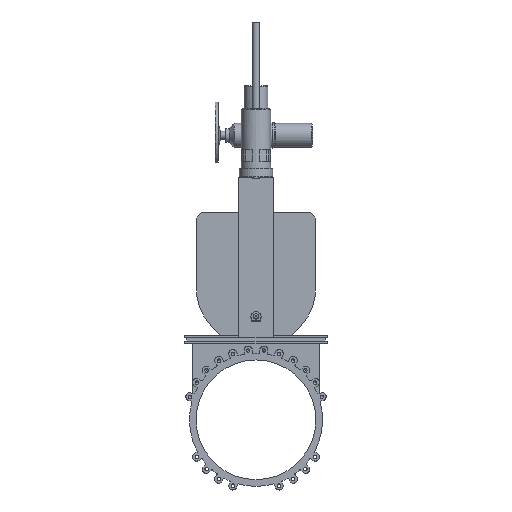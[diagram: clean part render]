
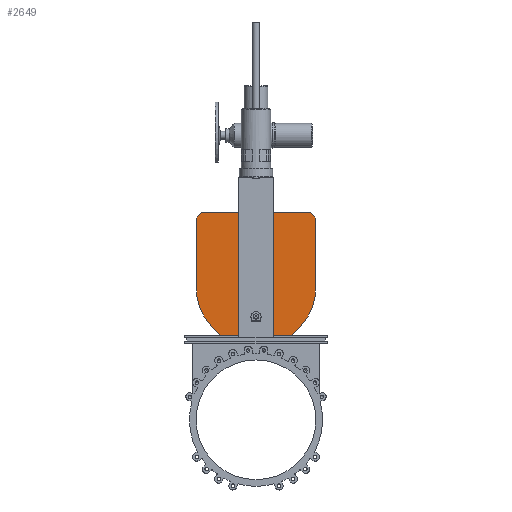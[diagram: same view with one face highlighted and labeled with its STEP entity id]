
A CAD part, front view. The second image highlights one B-rep face of the part: STEP entity #2649.
In plain terms, the highlighted planar face has unit normal (0, -1, 0).
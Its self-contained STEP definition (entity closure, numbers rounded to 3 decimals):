
#2649=ADVANCED_FACE('',(#6391),#6393,.T.);
#6391=FACE_BOUND('',#6392,.T.);
#6392=EDGE_LOOP('',(#9331,#9332,#9333,#9334,#9335,#9336,#9337,#9338,#9339,#9340,
#9341,#9342));
#6393=PLANE('',#6394);
#6394=AXIS2_PLACEMENT_3D('',#6395,#6396,#6397);
#6395=CARTESIAN_POINT('',(0.,-7.,0.));
#6396=DIRECTION('',(0.,-1.,0.));
#6397=DIRECTION('',(1.,0.,0.));
#9331=ORIENTED_EDGE('',*,*,#11648,.F.);
#9332=ORIENTED_EDGE('',*,*,#11649,.T.);
#9333=ORIENTED_EDGE('',*,*,#11650,.T.);
#9334=ORIENTED_EDGE('',*,*,#11651,.F.);
#9335=ORIENTED_EDGE('',*,*,#11652,.T.);
#9336=ORIENTED_EDGE('',*,*,#11634,.F.);
#9337=ORIENTED_EDGE('',*,*,#11653,.F.);
#9338=ORIENTED_EDGE('',*,*,#11625,.F.);
#9339=ORIENTED_EDGE('',*,*,#11647,.T.);
#9340=ORIENTED_EDGE('',*,*,#11654,.F.);
#9341=ORIENTED_EDGE('',*,*,#11655,.T.);
#9342=ORIENTED_EDGE('',*,*,#11656,.T.);
#11625=EDGE_CURVE('',#14810,#14812,#14813,.T.);
#11634=EDGE_CURVE('',#14825,#14827,#14828,.T.);
#11647=EDGE_CURVE('',#14810,#14848,#14850,.T.);
#11648=EDGE_CURVE('',#14851,#14852,#14853,.T.);
#11649=EDGE_CURVE('',#14851,#14854,#14855,.T.);
#11650=EDGE_CURVE('',#14854,#14856,#14857,.T.);
#11651=EDGE_CURVE('',#14858,#14856,#14859,.F.);
#11652=EDGE_CURVE('',#14858,#14827,#14860,.T.);
#11653=EDGE_CURVE('',#14812,#14825,#14861,.F.);
#11654=EDGE_CURVE('',#14862,#14848,#14863,.F.);
#11655=EDGE_CURVE('',#14862,#14864,#14865,.T.);
#11656=EDGE_CURVE('',#14864,#14852,#14866,.T.);
#14810=VERTEX_POINT('',#16406);
#14812=VERTEX_POINT('',#16410);
#14813=LINE('',#16411,#16412);
#14825=VERTEX_POINT('',#16439);
#14827=VERTEX_POINT('',#16443);
#14828=LINE('',#16444,#16445);
#14848=VERTEX_POINT('',#16490);
#14850=LINE('',#16494,#16495);
#14851=VERTEX_POINT('',#16497);
#14852=VERTEX_POINT('',#16498);
#14853=LINE('',#16499,#16500);
#14854=VERTEX_POINT('',#16502);
#14855=CIRCLE('',#16503,450.);
#14856=VERTEX_POINT('',#16507);
#14857=LINE('',#16508,#16509);
#14858=VERTEX_POINT('',#16511);
#14859=LINE('',#16512,#16513);
#14860=LINE('',#16515,#16516);
#14861=LINE('',#16518,#16519);
#14862=VERTEX_POINT('',#16521);
#14863=LINE('',#16522,#16523);
#14864=VERTEX_POINT('',#16525);
#14865=LINE('',#16526,#16527);
#14866=CIRCLE('',#16529,450.);
#16406=CARTESIAN_POINT('',(-75.,-7.,1557.5));
#16410=CARTESIAN_POINT('',(-75.,-7.,1552.5));
#16411=CARTESIAN_POINT('',(-75.,-7.,1557.5));
#16412=VECTOR('',#16413,1.);
#16413=DIRECTION('',(0.,0.,-1.));
#16439=CARTESIAN_POINT('',(75.,-7.,1552.5));
#16443=CARTESIAN_POINT('',(75.,-7.,1557.5));
#16444=CARTESIAN_POINT('',(75.,-7.,1552.5));
#16445=VECTOR('',#16446,1.);
#16446=DIRECTION('',(0.,0.,1.));
#16490=CARTESIAN_POINT('',(-410.,-7.,1557.5));
#16494=CARTESIAN_POINT('',(-75.,-7.,1557.5));
#16495=VECTOR('',#16496,1.);
#16496=DIRECTION('',(-1.,0.,0.));
#16497=CARTESIAN_POINT('',(266.634,-7.,637.5));
#16498=CARTESIAN_POINT('',(-266.634,-7.,637.5));
#16499=CARTESIAN_POINT('',(266.634,-7.,637.5));
#16500=VECTOR('',#16501,1.);
#16501=DIRECTION('',(-1.,0.,0.));
#16502=CARTESIAN_POINT('',(450.,-7.,1000.));
#16503=AXIS2_PLACEMENT_3D('',#16504,#16505,#16506);
#16504=CARTESIAN_POINT('',(0.,-7.,1000.));
#16505=DIRECTION('',(0.,-1.,0.));
#16506=DIRECTION('',(0.593,0.,-0.806));
#16507=CARTESIAN_POINT('',(450.,-7.,1517.5));
#16508=CARTESIAN_POINT('',(450.,-7.,1000.));
#16509=VECTOR('',#16510,1.);
#16510=DIRECTION('',(0.,0.,1.));
#16511=CARTESIAN_POINT('',(410.,-7.,1557.5));
#16512=CARTESIAN_POINT('',(450.,-7.,1517.5));
#16513=VECTOR('',#16514,1.);
#16514=DIRECTION('',(-0.707,0.,0.707));
#16515=CARTESIAN_POINT('',(410.,-7.,1557.5));
#16516=VECTOR('',#16517,1.);
#16517=DIRECTION('',(-1.,0.,0.));
#16518=CARTESIAN_POINT('',(75.,-7.,1552.5));
#16519=VECTOR('',#16520,1.);
#16520=DIRECTION('',(-1.,0.,0.));
#16521=CARTESIAN_POINT('',(-450.,-7.,1517.5));
#16522=CARTESIAN_POINT('',(-410.,-7.,1557.5));
#16523=VECTOR('',#16524,1.);
#16524=DIRECTION('',(-0.707,0.,-0.707));
#16525=CARTESIAN_POINT('',(-450.,-7.,1000.));
#16526=CARTESIAN_POINT('',(-450.,-7.,1517.5));
#16527=VECTOR('',#16528,1.);
#16528=DIRECTION('',(0.,0.,-1.));
#16529=AXIS2_PLACEMENT_3D('',#16530,#16531,#16532);
#16530=CARTESIAN_POINT('',(0.,-7.,1000.));
#16531=DIRECTION('',(0.,-1.,0.));
#16532=DIRECTION('',(-1.,0.,0.));
